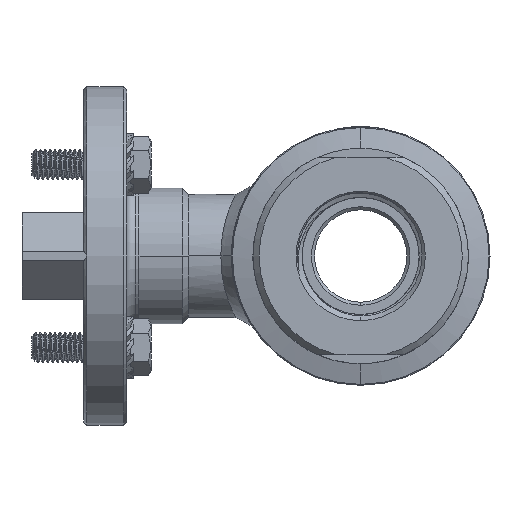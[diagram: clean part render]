
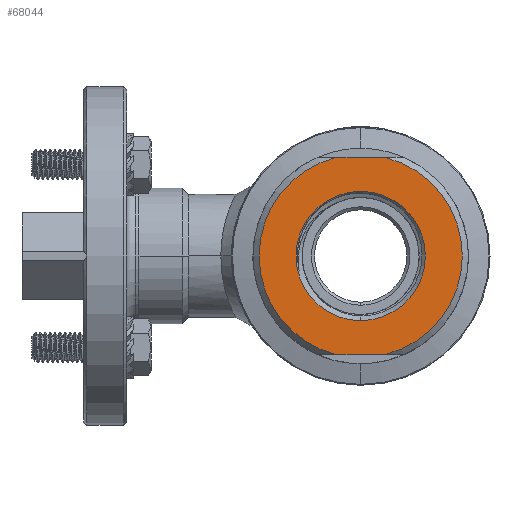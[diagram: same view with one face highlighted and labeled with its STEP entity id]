
A CAD part, left-side view. The second image highlights one B-rep face of the part: STEP entity #68044.
In plain terms, the highlighted planar face has unit normal (-1, 0, 0).
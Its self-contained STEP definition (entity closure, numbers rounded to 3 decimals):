
#9028=CARTESIAN_POINT('',(-31.,0.,0.));
#9029=DIRECTION('',(-1.,0.,0.));
#9030=DIRECTION('',(0.,0.244,0.97));
#9031=AXIS2_PLACEMENT_3D('',#9028,#9029,#9030);
#9036=DIRECTION('',(0.,1.,0.));
#9037=VECTOR('',#9036,8.062);
#9038=CARTESIAN_POINT('',(-31.,-4.031,
16.));
#9039=LINE('',#9038,#9037);
#9043=CARTESIAN_POINT('',(-31.,0.,0.));
#9044=DIRECTION('',(-1.,0.,0.));
#9045=DIRECTION('',(0.,-0.244,-0.97));
#9046=AXIS2_PLACEMENT_3D('',#9043,#9044,#9045);
#9051=DIRECTION('',(0.,1.,0.));
#9052=VECTOR('',#9051,8.062);
#9053=CARTESIAN_POINT('',(-31.,-4.031,
-16.));
#9054=LINE('',#9053,#9052);
#9058=CARTESIAN_POINT('',(-31.,0.,0.));
#9059=DIRECTION('',(-1.,0.,0.));
#9060=DIRECTION('',(0.,0.,1.));
#9061=AXIS2_PLACEMENT_3D('',#9058,#9059,#9060);
#9066=CARTESIAN_POINT('',(-31.,0.,0.));
#9067=DIRECTION('',(-1.,0.,0.));
#9068=DIRECTION('',(0.,0.,-1.));
#9069=AXIS2_PLACEMENT_3D('',#9066,#9067,#9068);
#9074=CARTESIAN_POINT('',(-31.,4.031,
-16.));
#9102=CARTESIAN_POINT('',(-31.,4.031,16.));
#58933=CARTESIAN_POINT('',(-31.,0.,10.5));
#58934=CARTESIAN_POINT('',(-31.,0.,-10.5));
#58935=VERTEX_POINT('',#58933);
#58936=VERTEX_POINT('',#58934);
#58947=VERTEX_POINT('',#9074);
#58951=VERTEX_POINT('',#9102);
#58952=CARTESIAN_POINT('',(-31.,-4.031,
16.));
#58953=VERTEX_POINT('',#58952);
#58954=CARTESIAN_POINT('',(-31.,-4.031,
-16.));
#58955=VERTEX_POINT('',#58954);
#68025=CARTESIAN_POINT('',(-31.,0.,0.));
#68026=DIRECTION('',(1.,0.,0.));
#68027=DIRECTION('',(0.,0.,1.));
#68028=AXIS2_PLACEMENT_3D('',#68025,#68026,#68027);
#68029=PLANE('',#68028);
#68031=ORIENTED_EDGE('',*,*,#68030,.F.);
#68033=ORIENTED_EDGE('',*,*,#68032,.F.);
#68035=ORIENTED_EDGE('',*,*,#68034,.F.);
#68037=ORIENTED_EDGE('',*,*,#68036,.T.);
#68038=EDGE_LOOP('',(#68031,#68033,#68035,#68037));
#68039=FACE_OUTER_BOUND('',#68038,.F.);
#68040=ORIENTED_EDGE('',*,*,#67208,.T.);
#68041=ORIENTED_EDGE('',*,*,#68019,.T.);
#68042=EDGE_LOOP('',(#68040,#68041));
#68043=FACE_BOUND('',#68042,.F.);
#68044=ADVANCED_FACE('',(#68039,#68043),#68029,.F.);
#9032=CIRCLE('',#9031,16.5);
#9047=CIRCLE('',#9046,16.5);
#9062=CIRCLE('',#9061,10.5);
#9070=CIRCLE('',#9069,10.5);
#67208=EDGE_CURVE('',#58935,#58936,#9062,.T.);
#68019=EDGE_CURVE('',#58936,#58935,#9070,.T.);
#68030=EDGE_CURVE('',#58951,#58947,#9032,.T.);
#68032=EDGE_CURVE('',#58953,#58951,#9039,.T.);
#68034=EDGE_CURVE('',#58955,#58953,#9047,.T.);
#68036=EDGE_CURVE('',#58955,#58947,#9054,.T.);
